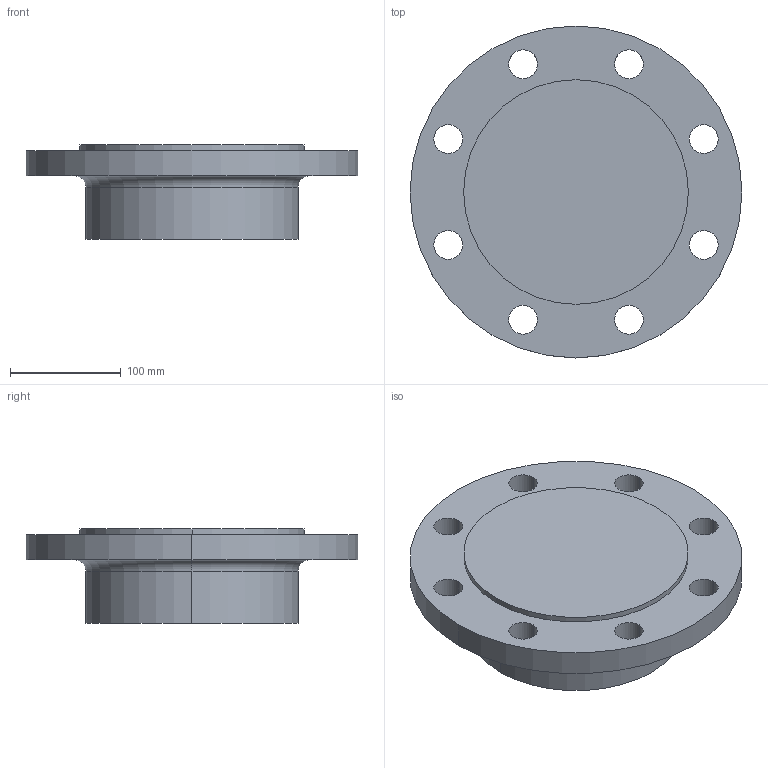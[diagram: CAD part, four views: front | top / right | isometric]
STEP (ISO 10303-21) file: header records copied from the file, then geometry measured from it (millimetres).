
FILE_DESCRIPTION (( 'STEP AP214' ), '1' );
FILE_NAME ('PN40 DN150 Type 21(i) - Type E Face.STEP', '2019-01-04T21:54:37', ( '' ), ( '' ), 'SwSTEP 2.0', 'SolidWorks 2019', '' );
FILE_SCHEMA (( 'AUTOMOTIVE_DESIGN' ));
Length unit declared in the file: millimetre
Products named in the file (1): PN40 DN150 Type 21(i) - Type E Face
Bounding box: 300 x 300 x 85 mm (x, y, z)
Volume: 3353472.6 mm3; surface area: 204609.1 mm2
Topology: 1 solids, 1 shells, 28 faces, 70 edges, 46 vertices
Faces by surface type: cylinder 22, plane 4, torus 2
Entity records: 932 total; most frequent: DIRECTION 176, CARTESIAN_POINT 145, ORIENTED_EDGE 140, AXIS2_PLACEMENT_3D 77, EDGE_CURVE 70, CIRCLE 48, EDGE_LOOP 46, VERTEX_POINT 46
